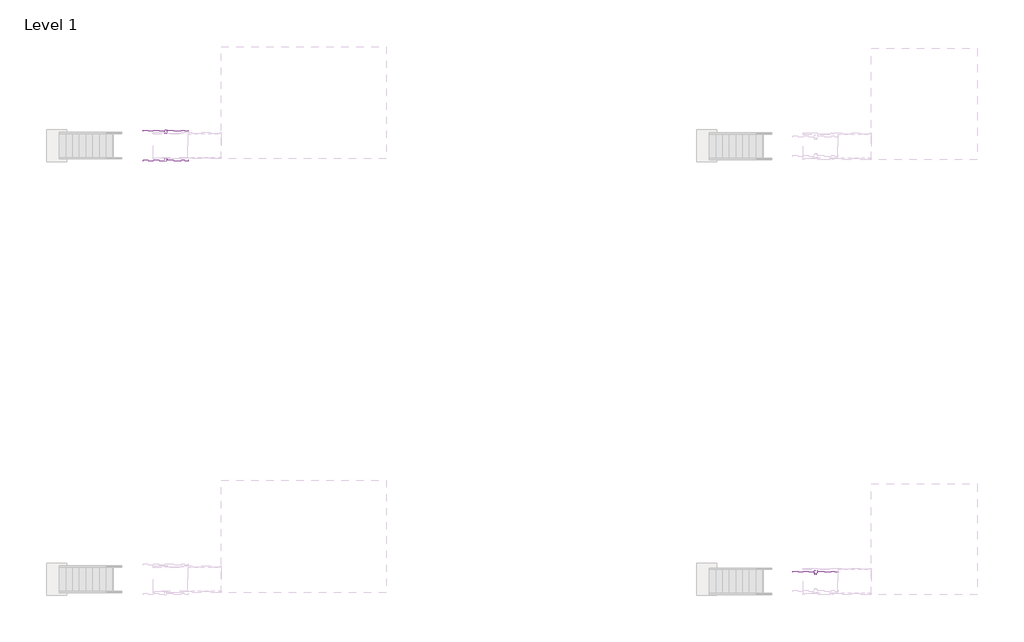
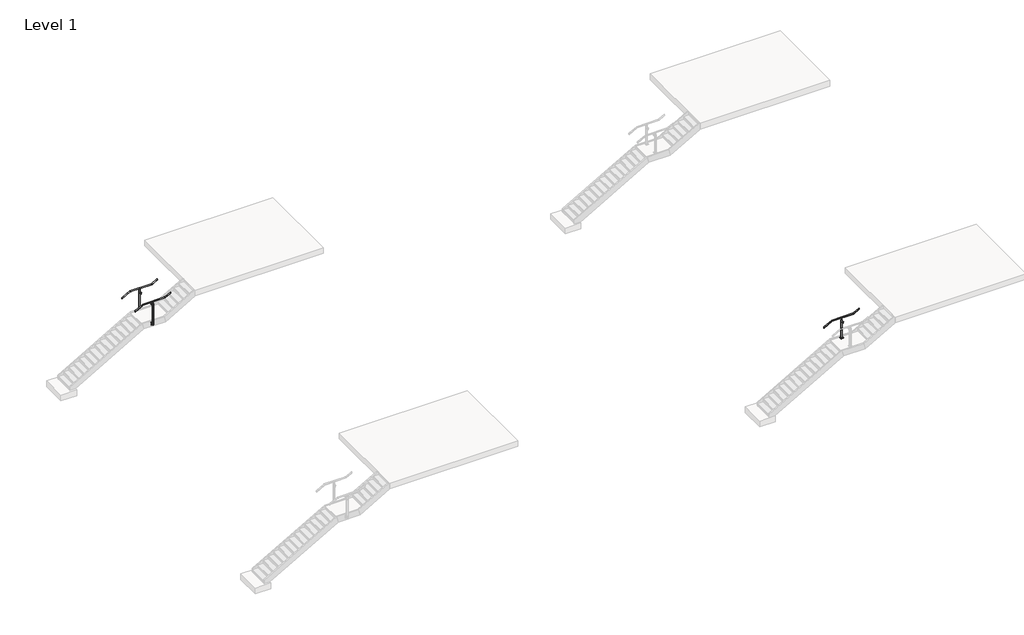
# One storey, part 16 of 26: 3 railings.
"""IFC4 building model written with IfcOpenShell, lengths in millimetres."""

from ifc_helpers import new_model, si_unit, point, frame, frame_2d, origin, place, context, project, spatial, polyline, circle_curve, ellipse_curve, trimmed, segment, composite_curve, outline, extrude, faceted_brep, element, save
from ifc_brep_helpers import plane_surface, cylinder_surface, advanced_brep

model = new_model("IFC4")

# Units and contexts
model_context = context("Model", 3, world=origin())
ifc_project = project(units=[si_unit("LENGTHUNIT", "METRE", prefix="MILLI")], contexts=[model_context])

# Site, building, storey
site = spatial("IfcSite", under=ifc_project)
building = spatial("IfcBuilding", under=site)
storey = spatial("IfcBuildingStorey", under=building, Name="Level 1", Elevation=0.0)

# Railings
placement = place(None, origin())
element("IfcRailing", 1, ObjectType="VIVA-CUBE-Perforated-Fascia Mount-Stair-Landing", at=placement, inside=storey, context=model_context, shape_type="SolidModel", body=[
    advanced_brep(
    [(87644.1145262, -1406.4771758, 3009.6740933), (87644.1145262, -1355.6771758, 3009.6740933), (88031.8598629, -1406.4771758, 3231.2428571), (88031.8598629, -1355.6771758, 3231.2428571), (89098.6598629, -1406.4771758, 3231.2428571), (89098.6598629, -1355.6771758, 3231.2428571), (89368.1395262, -1406.4771758, 3385.2312362), (89368.1395262, -1355.6771758, 3385.2312362)],
    [
        (0, 1, ellipse_curve(frame((87644.1145262, -1381.0771758, 3009.6740933), z_axis=(-1.0, 0.0, 0.0), x_axis=(0.0, 0.0, -0.9999999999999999)), 29.2544781, 25.4)),
        (1, 0, ellipse_curve(frame((87644.1145262, -1381.0771758, 3009.6740933), z_axis=(-1.0, 0.0, 0.0), x_axis=(0.0, 0.0, -0.9999999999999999)), 29.2544781, 25.4)),
        (0, 2),
        (2, 3, ellipse_curve(frame((88031.8598629, -1381.0771758, 3231.2428571), z_axis=(-0.966499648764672, 0.0, -0.25666793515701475), x_axis=(0.25666793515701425, 0.0, -0.9664996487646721)), 26.2804027, 25.4)),
        (3, 1),
        (3, 2, ellipse_curve(frame((88031.8598629, -1381.0771758, 3231.2428571), z_axis=(-0.966499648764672, 0.0, -0.25666793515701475), x_axis=(0.25666793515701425, 0.0, -0.9664996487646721)), 26.2804027, 25.4)),
        (2, 4),
        (4, 5, ellipse_curve(frame((89098.6598629, -1381.0771758, 3231.2428571), z_axis=(-0.9664996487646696, 0.0, -0.2566679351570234), x_axis=(-0.2566679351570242, 0.0, 0.9664996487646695)), 26.2804027, 25.4)),
        (5, 3),
        (5, 4, ellipse_curve(frame((89098.6598629, -1381.0771758, 3231.2428571), z_axis=(-0.9664996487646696, 0.0, -0.2566679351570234), x_axis=(-0.2566679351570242, 0.0, 0.9664996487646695)), 26.2804027, 25.4)),
        (6, 7, ellipse_curve(frame((89368.1395262, -1381.0771758, 3385.2312362), z_axis=(1.0, 0.0, 0.0), x_axis=(0.0, 0.0, -1.0)), 29.2544781, 25.4)),
        (7, 6, ellipse_curve(frame((89368.1395262, -1381.0771758, 3385.2312362), z_axis=(1.0, 0.0, 0.0), x_axis=(0.0, 0.0, -1.0)), 29.2544781, 25.4)),
        (4, 6),
        (7, 5),
    ],
    [
        plane_surface(frame((87644.1145262, -1381.0771758, 3038.9285714), z_axis=(-1.0, 0.0, 0.0), x_axis=(0.0, 1.0, 0.0))),
        cylinder_surface(frame((87656.7164552, -1381.0771758, 3016.8751956), z_axis=(-0.868243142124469, 0.0, -0.49613893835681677), x_axis=(0.0, 1.0, 0.0)), 25.4),
        cylinder_surface(frame((88025.1145262, -1381.0771758, 3231.2428571), z_axis=(-1.0, 0.0, 0.0), x_axis=(0.0, 1.0, 0.0)), 25.4),
        plane_surface(frame((89368.1395262, -1381.0771758, 3414.4857143), z_axis=(1.0, 0.0, 0.0), x_axis=(0.0, 1.0, 0.0))),
        cylinder_surface(frame((89104.5164552, -1381.0771758, 3234.5894813), z_axis=(-0.8682431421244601, 0.0, -0.4961389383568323), x_axis=(0.0, 1.0, 0.0)), 25.4),
    ],
    [
        (0, [[1, 2]]),
        (1, [[-1, 3, 4, 5]]),
        (1, [[-2, -5, 6, -3]]),
        (2, [[-4, 7, 8, 9]]),
        (2, [[-6, -9, 10, -7]]),
        (3, [[11, 12]]),
        (4, [[-8, 13, -12, 14]]),
        (4, [[-10, -14, -11, -13]]),
    ],
),
    extrude(outline(composite_curve([segment(trimmed(circle_curve(frame_2d((0.0, 7.0)), 7.0), [point((0.0, 14.0))], [point((0.0, 0.0))], False, "CARTESIAN"), True, "CONTINUOUS"), segment(trimmed(circle_curve(frame_2d((0.0, 7.0)), 7.0), [point((0.0, 0.0))], [point((0.0, 14.0))], False, "CARTESIAN"), True, "CONTINUOUS")], self_intersect=False)), frame((88506.6192867, -1466.7610015, 2972.3156836), z_axis=(-0.0012555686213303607, 0.0, 0.999999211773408), x_axis=(-0.999999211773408, 0.0, -0.0012555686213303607)), (0.0, 0.0, 1.0), 75.97),
    extrude(outline(composite_curve([segment(polyline([(-1461.4793453, 3056.8509005), (-1460.4529557, 3055.8335135)]), True, "CONTINUOUS"), segment(trimmed(circle_curve(frame_2d((-1461.5089336, 3054.7681916)), 1.5), [point((-1460.4529557, 3055.8335135))], [point((-1460.5235321, 3053.6372698))], False, "CARTESIAN"), True, "CONTINUOUS"), segment(trimmed(circle_curve(frame_2d((-1475.0089336, 3070.2618193)), 22.05), [point((-1460.5235321, 3053.6372698))], [point((-1489.494335, 3053.6372698))], False, "CARTESIAN"), True, "CONTINUOUS"), segment(trimmed(circle_curve(frame_2d((-1488.5089336, 3054.7681916)), 1.5), [point((-1489.494335, 3053.6372698))], [point((-1489.5649114, 3055.8335135))], False, "CARTESIAN"), True, "CONTINUOUS"), segment(polyline([(-1489.5649114, 3055.8335135), (-1488.5385218, 3056.8509005)]), True, "CONTINUOUS"), segment(trimmed(circle_curve(frame_2d((-1475.0089336, 3070.2618193)), 19.05), [point((-1488.5385218, 3056.8509005))], [point((-1461.4793453, 3056.8509005))], True, "CARTESIAN"), True, "CONTINUOUS")], self_intersect=False)), frame((88468.4477528, 0.0, 0.0), z_axis=(1.0, 0.0, 0.0), x_axis=(0.0, 1.0, 0.0)), (0.0, 0.0, 1.0), 74.5229187),
    extrude(outline(composite_curve([segment(trimmed(circle_curve(frame_2d((2999.1922796, 88506.5593832)), 12.5), [point((2999.1922796, 88519.0593832))], [point((2999.1922796, 88494.0593832))], False, "CARTESIAN"), True, "CONTINUOUS"), segment(trimmed(circle_curve(frame_2d((2999.1922796, 88506.5593832)), 12.5), [point((2999.1922796, 88494.0593832))], [point((2999.1922796, 88519.0593832))], False, "CARTESIAN"), True, "CONTINUOUS")], self_intersect=False)), frame((0.0, -1488.5385218, 0.0), z_axis=(0.0, 1.0, 0.0), x_axis=(0.0, 0.0, 1.0)), (0.0, 0.0, 1.0), 82.061346),
    extrude(outline(polyline([(88570.0239012, -1435.5902114), (88443.0239012, -1435.5902114), (88443.0239012, -1425.6080114), (88570.0239012, -1425.6080114), (88570.0239012, -1435.5902114)])), frame((0.0, 0.0, 1999.3428571), z_axis=(0.0, 0.0, 1.0), x_axis=(1.0, 0.0, 0.0)), (0.0, 0.0, 1.0), 152.4),
    extrude(outline(composite_curve([segment(polyline([(2151.7428571, 88567.4839012), (2151.7428571, 88445.5639012)]), True, "CONTINUOUS"), segment(trimmed(circle_curve(frame_2d((2149.2028571, 88445.5639012)), 2.54), [point((2151.7428571, 88445.5639012))], [point((2149.2028571, 88443.0239012))], False, "CARTESIAN"), True, "CONTINUOUS"), segment(polyline([(2149.2028571, 88443.0239012), (2001.8828571, 88443.0239012)]), True, "CONTINUOUS"), segment(trimmed(circle_curve(frame_2d((2001.8828571, 88445.5639012)), 2.54), [point((2001.8828571, 88443.0239012))], [point((1999.3428571, 88445.5639012))], False, "CARTESIAN"), True, "CONTINUOUS"), segment(polyline([(1999.3428571, 88445.5639012), (1999.3428571, 88567.4839012)]), True, "CONTINUOUS"), segment(trimmed(circle_curve(frame_2d((2001.8828571, 88567.4839012)), 2.54), [point((1999.3428571, 88567.4839012))], [point((2001.8828571, 88570.0239012))], False, "CARTESIAN"), True, "CONTINUOUS"), segment(polyline([(2001.8828571, 88570.0239012), (2149.2028571, 88570.0239012)]), True, "CONTINUOUS"), segment(trimmed(circle_curve(frame_2d((2149.2028571, 88567.4839012)), 2.54), [point((2149.2028571, 88570.0239012))], [point((2151.7428571, 88567.4839012))], False, "CARTESIAN"), True, "CONTINUOUS")], self_intersect=False), holes=[composite_curve([segment(trimmed(circle_curve(frame_2d((2132.6928571, 88462.0739012)), 5.55625), [point((2132.6928571, 88467.6301512))], [point((2132.6928571, 88456.5176512))], True, "CARTESIAN"), True, "CONTINUOUS"), segment(trimmed(circle_curve(frame_2d((2132.6928571, 88462.0739012)), 5.55625), [point((2132.6928571, 88456.5176512))], [point((2132.6928571, 88467.6301512))], True, "CARTESIAN"), True, "CONTINUOUS")], self_intersect=False), composite_curve([segment(trimmed(circle_curve(frame_2d((2132.6928571, 88550.9739012)), 5.55625), [point((2132.6928571, 88556.5301512))], [point((2132.6928571, 88545.4176512))], True, "CARTESIAN"), True, "CONTINUOUS"), segment(trimmed(circle_curve(frame_2d((2132.6928571, 88550.9739012)), 5.55625), [point((2132.6928571, 88545.4176512))], [point((2132.6928571, 88556.5301512))], True, "CARTESIAN"), True, "CONTINUOUS")], self_intersect=False), composite_curve([segment(trimmed(circle_curve(frame_2d((2018.3928571, 88550.9739012)), 5.55625), [point((2018.3928571, 88556.5301512))], [point((2018.3928571, 88545.4176512))], True, "CARTESIAN"), True, "CONTINUOUS"), segment(trimmed(circle_curve(frame_2d((2018.3928571, 88550.9739012)), 5.55625), [point((2018.3928571, 88545.4176512))], [point((2018.3928571, 88556.5301512))], True, "CARTESIAN"), True, "CONTINUOUS")], self_intersect=False), composite_curve([segment(trimmed(circle_curve(frame_2d((2018.3928571, 88462.0739012)), 5.55625), [point((2018.3928571, 88467.6301512))], [point((2018.3928571, 88456.5176512))], True, "CARTESIAN"), True, "CONTINUOUS"), segment(trimmed(circle_curve(frame_2d((2018.3928571, 88462.0739012)), 5.55625), [point((2018.3928571, 88456.5176512))], [point((2018.3928571, 88467.6301512))], True, "CARTESIAN"), True, "CONTINUOUS")], self_intersect=False)]), frame((0.0, -1425.6080114, 0.0), z_axis=(0.0, 1.0, 0.0), x_axis=(0.0, 0.0, 1.0)), (0.0, 0.0, 1.0), 9.9822),
    extrude(outline(polyline([(88474.7739012, -1425.6080114), (88474.7739012, -1349.3271758), (88538.2739012, -1349.3271758), (88538.2739012, -1425.6080114), (88474.7739012, -1425.6080114)])), frame((0.0, 0.0, 2026.3303571), z_axis=(0.0, 0.0, 1.0), x_axis=(1.0, 0.0, 0.0)), (0.0, 0.0, 1.0), 9.5123),
    extrude(outline(polyline([(88474.7739012, -1425.6080114), (88474.7739012, -1349.3271758), (88538.2739012, -1349.3271758), (88538.2739012, -1425.6080114), (88474.7739012, -1425.6080114)])), frame((0.0, 0.0, 2115.2303571), z_axis=(0.0, 0.0, 1.0), x_axis=(1.0, 0.0, 0.0)), (0.0, 0.0, 1.0), 9.525),
    extrude(outline(composite_curve([segment(trimmed(circle_curve(frame_2d((2999.1922796, 88506.5593832)), 12.5), [point((2999.1922796, 88494.0593832))], [point((2999.1922796, 88519.0593832))], False, "CARTESIAN"), True, "CONTINUOUS"), segment(trimmed(circle_curve(frame_2d((2999.1922796, 88506.5593832)), 12.5), [point((2999.1922796, 88519.0593832))], [point((2999.1922796, 88494.0593832))], False, "CARTESIAN"), True, "CONTINUOUS")], self_intersect=False)), frame((0.0, -1355.6771758, 0.0), z_axis=(0.0, 1.0, 0.0), x_axis=(0.0, 0.0, 1.0)), (0.0, 0.0, 1.0), 7.62),
    faceted_brep([(88519.2239012, -1393.7771758, 3174.433132), (88519.2239012, -1385.0459258, 3174.433132), (88493.8239012, -1385.0459258, 3174.433132), (88493.8239012, -1393.7771758, 3174.433132), (88493.8239012, -1368.3771758, 3174.433132), (88493.8239012, -1377.1084258, 3174.433132), (88519.2239012, -1377.1084258, 3174.433132), (88519.2239012, -1368.3771758, 3174.433132), (88531.9239012, -1406.4771758, 3118.2776425), (88531.9239012, -1355.6771758, 3118.2776425), (88481.1239012, -1406.4771758, 3118.2776425), (88481.1239012, -1355.6771758, 3118.2776425), (88531.9239012, -1406.4771758, 2035.8426571), (88481.1239012, -1406.4771758, 2035.8426571), (88481.1239012, -1355.6771758, 2035.8426571), (88531.9239012, -1355.6771758, 2035.8426571), (88493.8239012, -1377.1084258, 3186.4734584), (88493.8239012, -1385.0459258, 3186.4734584), (88519.2239012, -1385.0459258, 3186.4734584), (88519.2239012, -1377.1084258, 3186.4734584)], [[[0, 1, 2, 3]], [[4, 5, 6, 7]], [[8, 9, 7, 6, 1, 0]], [[3, 10, 8, 0]], [[3, 2, 5, 4, 11, 10]], [[7, 9, 11, 4]], [[12, 13, 14, 15]], [[12, 8, 10, 13]], [[13, 10, 11, 14]], [[14, 11, 9, 15]], [[15, 9, 8, 12]], [[16, 17, 18, 19]], [[19, 6, 5, 16]], [[18, 1, 6, 19]], [[17, 2, 1, 18]], [[16, 5, 2, 17]]]),
    extrude(outline(composite_curve([segment(trimmed(circle_curve(frame_2d((-1367.0625436, 3206.6530378)), 2.9558141), [point((-1368.6101013, 3209.1713512))], [point((-1364.7742038, 3204.7821187))], False, "CARTESIAN"), True, "CONTINUOUS"), segment(trimmed(circle_curve(frame_2d((-1381.0404411, 3232.0488022)), 31.75), [point((-1364.7742038, 3204.7821187))], [point((-1396.2910961, 3204.2013603))], False, "CARTESIAN"), True, "CONTINUOUS"), segment(trimmed(circle_curve(frame_2d((-1394.813791, 3206.5739456)), 2.7949225), [point((-1396.2910961, 3204.2013603))], [point((-1393.5691379, 3209.0764304))], False, "CARTESIAN"), True, "CONTINUOUS"), segment(trimmed(circle_curve(frame_2d((-1381.1739041, 3231.2861755)), 25.4345159), [point((-1393.5691379, 3209.0764304))], [point((-1368.6101013, 3209.1713512))], True, "CARTESIAN"), True, "CONTINUOUS")], self_intersect=False)), frame((88461.2865012, 0.0, 0.0), z_axis=(1.0, 0.0, 0.0), x_axis=(0.0, 1.0, 0.0)), (0.0, 0.0, 1.0), 90.4748),
    extrude(outline(composite_curve([segment(polyline([(3200.5113742, 88533.5918161), (3200.5113742, 88479.4559863)]), True, "CONTINUOUS"), segment(trimmed(circle_curve(frame_2d((3186.1434593, 88479.4559863)), 14.3679149), [point((3200.5113742, 88479.4559863))], [point((3186.1434593, 88493.8239012))], True, "CARTESIAN"), True, "CONTINUOUS"), segment(trimmed(circle_curve(frame_2d((3186.1434593, 88506.5239012)), 12.7), [point((3186.1434593, 88493.8239012))], [point((3186.1434593, 88519.2239012))], False, "CARTESIAN"), True, "CONTINUOUS"), segment(trimmed(circle_curve(frame_2d((3186.1434593, 88533.5918161)), 14.3679149), [point((3186.1434593, 88519.2239012))], [point((3200.5113742, 88533.5918161))], True, "CARTESIAN"), True, "CONTINUOUS")], self_intersect=False)), frame((0.0, -1383.6171758, 0.0), z_axis=(0.0, 1.0, 0.0), x_axis=(0.0, 0.0, 1.0)), (0.0, 0.0, 1.0), 5.08),
])
element("IfcRailing", 2, ObjectType="VIVA-CUBE-Perforated-Fascia Mount-Stair-Landing", at=placement, inside=storey, context=model_context, shape_type="SolidModel", body=[
    advanced_brep(
    [(87644.1145262, -2531.4939758, 3009.6740933), (87644.1145262, -2480.6939758, 3009.6740933), (88031.8598629, -2531.4939758, 3231.2428571), (88031.8598629, -2480.6939758, 3231.2428571), (89098.6598629, -2531.4939758, 3231.2428571), (89098.6598629, -2480.6939758, 3231.2428571), (89368.1395262, -2531.4939758, 3385.2312362), (89368.1395262, -2480.6939758, 3385.2312362)],
    [
        (0, 1, ellipse_curve(frame((87644.1145262, -2506.0939758, 3009.6740933), z_axis=(-1.0, 0.0, 0.0), x_axis=(0.0, 0.0, -0.9999999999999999)), 29.2544781, 25.4)),
        (1, 0, ellipse_curve(frame((87644.1145262, -2506.0939758, 3009.6740933), z_axis=(-1.0, 0.0, 0.0), x_axis=(0.0, 0.0, -0.9999999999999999)), 29.2544781, 25.4)),
        (0, 2),
        (2, 3, ellipse_curve(frame((88031.8598629, -2506.0939758, 3231.2428571), z_axis=(-0.966499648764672, 0.0, -0.25666793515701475), x_axis=(0.25666793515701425, 0.0, -0.9664996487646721)), 26.2804027, 25.4)),
        (3, 1),
        (3, 2, ellipse_curve(frame((88031.8598629, -2506.0939758, 3231.2428571), z_axis=(-0.966499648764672, 0.0, -0.25666793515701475), x_axis=(0.25666793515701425, 0.0, -0.9664996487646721)), 26.2804027, 25.4)),
        (2, 4),
        (4, 5, ellipse_curve(frame((89098.6598629, -2506.0939758, 3231.2428571), z_axis=(-0.9664996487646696, 0.0, -0.2566679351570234), x_axis=(-0.2566679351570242, 0.0, 0.9664996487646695)), 26.2804027, 25.4)),
        (5, 3),
        (5, 4, ellipse_curve(frame((89098.6598629, -2506.0939758, 3231.2428571), z_axis=(-0.9664996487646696, 0.0, -0.2566679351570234), x_axis=(-0.2566679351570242, 0.0, 0.9664996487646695)), 26.2804027, 25.4)),
        (6, 7, ellipse_curve(frame((89368.1395262, -2506.0939758, 3385.2312362), z_axis=(1.0, 0.0, 0.0), x_axis=(0.0, 0.0, -1.0)), 29.2544781, 25.4)),
        (7, 6, ellipse_curve(frame((89368.1395262, -2506.0939758, 3385.2312362), z_axis=(1.0, 0.0, 0.0), x_axis=(0.0, 0.0, -1.0)), 29.2544781, 25.4)),
        (4, 6),
        (7, 5),
    ],
    [
        plane_surface(frame((87644.1145262, -2506.0939758, 3038.9285714), z_axis=(-1.0, 0.0, 0.0), x_axis=(0.0, 1.0, 0.0))),
        cylinder_surface(frame((87656.7164552, -2506.0939758, 3016.8751956), z_axis=(-0.868243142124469, 0.0, -0.49613893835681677), x_axis=(0.0, 1.0, 0.0)), 25.4),
        cylinder_surface(frame((88025.1145262, -2506.0939758, 3231.2428571), z_axis=(-1.0, 0.0, 0.0), x_axis=(0.0, 1.0, 0.0)), 25.4),
        plane_surface(frame((89368.1395262, -2506.0939758, 3414.4857143), z_axis=(1.0, 0.0, 0.0), x_axis=(0.0, 1.0, 0.0))),
        cylinder_surface(frame((89104.5164552, -2506.0939758, 3234.5894813), z_axis=(-0.8682431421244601, 0.0, -0.4961389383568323), x_axis=(0.0, 1.0, 0.0)), 25.4),
    ],
    [
        (0, [[1, 2]]),
        (1, [[-1, 3, 4, 5]]),
        (1, [[-2, -5, 6, -3]]),
        (2, [[-4, 7, 8, 9]]),
        (2, [[-6, -9, 10, -7]]),
        (3, [[11, 12]]),
        (4, [[-8, 13, -12, 14]]),
        (4, [[-10, -14, -11, -13]]),
    ],
),
    extrude(outline(composite_curve([segment(trimmed(circle_curve(frame_2d((0.0, -7.0)), 7.0), [point((0.0, -14.0))], [point((0.0, 0.0))], False, "CARTESIAN"), True, "CONTINUOUS"), segment(trimmed(circle_curve(frame_2d((0.0, -7.0)), 7.0), [point((0.0, 0.0))], [point((0.0, -14.0))], False, "CARTESIAN"), True, "CONTINUOUS")], self_intersect=False)), frame((88506.6192867, -2420.41015, 2972.3156836), z_axis=(-0.0012555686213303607, 0.0, 0.999999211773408), x_axis=(-0.999999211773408, 0.0, -0.0012555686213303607)), (0.0, 0.0, 1.0), 75.97),
    extrude(outline(composite_curve([segment(trimmed(circle_curve(frame_2d((-2412.162218, 3070.2618193)), 19.05), [point((-2425.6918062, 3056.8509005))], [point((-2398.6326297, 3056.8509005))], True, "CARTESIAN"), True, "CONTINUOUS"), segment(polyline([(-2398.6326297, 3056.8509005), (-2397.6062401, 3055.8335135)]), True, "CONTINUOUS"), segment(trimmed(circle_curve(frame_2d((-2398.662218, 3054.7681916)), 1.5), [point((-2397.6062401, 3055.8335135))], [point((-2397.6768165, 3053.6372698))], False, "CARTESIAN"), True, "CONTINUOUS"), segment(trimmed(circle_curve(frame_2d((-2412.162218, 3070.2618193)), 22.05), [point((-2397.6768165, 3053.6372698))], [point((-2426.6476194, 3053.6372698))], False, "CARTESIAN"), True, "CONTINUOUS"), segment(trimmed(circle_curve(frame_2d((-2425.662218, 3054.7681916)), 1.5), [point((-2426.6476194, 3053.6372698))], [point((-2426.7181958, 3055.8335135))], False, "CARTESIAN"), True, "CONTINUOUS"), segment(polyline([(-2426.7181958, 3055.8335135), (-2425.6918062, 3056.8509005)]), True, "CONTINUOUS")], self_intersect=False)), frame((88468.4477528, 0.0, 0.0), z_axis=(1.0, 0.0, 0.0), x_axis=(0.0, 1.0, 0.0)), (0.0, 0.0, 1.0), 74.5229187),
    extrude(outline(composite_curve([segment(trimmed(circle_curve(frame_2d((2999.1922796, 88506.5593832)), 12.5), [point((2999.1922796, 88519.0593832))], [point((2999.1922796, 88494.0593832))], False, "CARTESIAN"), True, "CONTINUOUS"), segment(trimmed(circle_curve(frame_2d((2999.1922796, 88506.5593832)), 12.5), [point((2999.1922796, 88494.0593832))], [point((2999.1922796, 88519.0593832))], False, "CARTESIAN"), True, "CONTINUOUS")], self_intersect=False)), frame((0.0, -2480.6939758, 0.0), z_axis=(0.0, 1.0, 0.0), x_axis=(0.0, 0.0, 1.0)), (0.0, 0.0, 1.0), 82.061346),
    extrude(outline(polyline([(88570.0239012, -2451.5809402), (88570.0239012, -2461.5631402), (88443.0239012, -2461.5631402), (88443.0239012, -2451.5809402), (88570.0239012, -2451.5809402)])), frame((0.0, 0.0, 1999.3428571), z_axis=(0.0, 0.0, 1.0), x_axis=(1.0, 0.0, 0.0)), (0.0, 0.0, 1.0), 152.4),
    extrude(outline(composite_curve([segment(polyline([(2151.7428571, 88567.4839012), (2151.7428571, 88445.5639012)]), True, "CONTINUOUS"), segment(trimmed(circle_curve(frame_2d((2149.2028571, 88445.5639012)), 2.54), [point((2151.7428571, 88445.5639012))], [point((2149.2028571, 88443.0239012))], False, "CARTESIAN"), True, "CONTINUOUS"), segment(polyline([(2149.2028571, 88443.0239012), (2001.8828571, 88443.0239012)]), True, "CONTINUOUS"), segment(trimmed(circle_curve(frame_2d((2001.8828571, 88445.5639012)), 2.54), [point((2001.8828571, 88443.0239012))], [point((1999.3428571, 88445.5639012))], False, "CARTESIAN"), True, "CONTINUOUS"), segment(polyline([(1999.3428571, 88445.5639012), (1999.3428571, 88567.4839012)]), True, "CONTINUOUS"), segment(trimmed(circle_curve(frame_2d((2001.8828571, 88567.4839012)), 2.54), [point((1999.3428571, 88567.4839012))], [point((2001.8828571, 88570.0239012))], False, "CARTESIAN"), True, "CONTINUOUS"), segment(polyline([(2001.8828571, 88570.0239012), (2149.2028571, 88570.0239012)]), True, "CONTINUOUS"), segment(trimmed(circle_curve(frame_2d((2149.2028571, 88567.4839012)), 2.54), [point((2149.2028571, 88570.0239012))], [point((2151.7428571, 88567.4839012))], False, "CARTESIAN"), True, "CONTINUOUS")], self_intersect=False), holes=[composite_curve([segment(trimmed(circle_curve(frame_2d((2132.6928571, 88462.0739012)), 5.55625), [point((2132.6928571, 88467.6301512))], [point((2132.6928571, 88456.5176512))], True, "CARTESIAN"), True, "CONTINUOUS"), segment(trimmed(circle_curve(frame_2d((2132.6928571, 88462.0739012)), 5.55625), [point((2132.6928571, 88456.5176512))], [point((2132.6928571, 88467.6301512))], True, "CARTESIAN"), True, "CONTINUOUS")], self_intersect=False), composite_curve([segment(trimmed(circle_curve(frame_2d((2132.6928571, 88550.9739012)), 5.55625), [point((2132.6928571, 88556.5301512))], [point((2132.6928571, 88545.4176512))], True, "CARTESIAN"), True, "CONTINUOUS"), segment(trimmed(circle_curve(frame_2d((2132.6928571, 88550.9739012)), 5.55625), [point((2132.6928571, 88545.4176512))], [point((2132.6928571, 88556.5301512))], True, "CARTESIAN"), True, "CONTINUOUS")], self_intersect=False), composite_curve([segment(trimmed(circle_curve(frame_2d((2018.3928571, 88550.9739012)), 5.55625), [point((2018.3928571, 88556.5301512))], [point((2018.3928571, 88545.4176512))], True, "CARTESIAN"), True, "CONTINUOUS"), segment(trimmed(circle_curve(frame_2d((2018.3928571, 88550.9739012)), 5.55625), [point((2018.3928571, 88545.4176512))], [point((2018.3928571, 88556.5301512))], True, "CARTESIAN"), True, "CONTINUOUS")], self_intersect=False), composite_curve([segment(trimmed(circle_curve(frame_2d((2018.3928571, 88462.0739012)), 5.55625), [point((2018.3928571, 88467.6301512))], [point((2018.3928571, 88456.5176512))], True, "CARTESIAN"), True, "CONTINUOUS"), segment(trimmed(circle_curve(frame_2d((2018.3928571, 88462.0739012)), 5.55625), [point((2018.3928571, 88456.5176512))], [point((2018.3928571, 88467.6301512))], True, "CARTESIAN"), True, "CONTINUOUS")], self_intersect=False)]), frame((0.0, -2471.5453402, 0.0), z_axis=(0.0, 1.0, 0.0), x_axis=(0.0, 0.0, 1.0)), (0.0, 0.0, 1.0), 9.9822),
    extrude(outline(polyline([(88474.7739012, -2461.5631402), (88538.2739012, -2461.5631402), (88538.2739012, -2537.8439758), (88474.7739012, -2537.8439758), (88474.7739012, -2461.5631402)])), frame((0.0, 0.0, 2026.3303571), z_axis=(0.0, 0.0, 1.0), x_axis=(1.0, 0.0, 0.0)), (0.0, 0.0, 1.0), 9.5123),
    extrude(outline(polyline([(88474.7739012, -2461.5631402), (88538.2739012, -2461.5631402), (88538.2739012, -2537.8439758), (88474.7739012, -2537.8439758), (88474.7739012, -2461.5631402)])), frame((0.0, 0.0, 2115.2303571), z_axis=(0.0, 0.0, 1.0), x_axis=(1.0, 0.0, 0.0)), (0.0, 0.0, 1.0), 9.525),
    extrude(outline(composite_curve([segment(trimmed(circle_curve(frame_2d((2999.1922796, 88506.5593832)), 12.5), [point((2999.1922796, 88494.0593832))], [point((2999.1922796, 88519.0593832))], False, "CARTESIAN"), True, "CONTINUOUS"), segment(trimmed(circle_curve(frame_2d((2999.1922796, 88506.5593832)), 12.5), [point((2999.1922796, 88519.0593832))], [point((2999.1922796, 88494.0593832))], False, "CARTESIAN"), True, "CONTINUOUS")], self_intersect=False)), frame((0.0, -2539.1139758, 0.0), z_axis=(0.0, 1.0, 0.0), x_axis=(0.0, 0.0, 1.0)), (0.0, 0.0, 1.0), 7.62),
    faceted_brep([(88519.2239012, -2493.3939758, 3174.433132), (88493.8239012, -2493.3939758, 3174.433132), (88493.8239012, -2502.1252258, 3174.433132), (88519.2239012, -2502.1252258, 3174.433132), (88493.8239012, -2518.7939758, 3174.433132), (88519.2239012, -2518.7939758, 3174.433132), (88519.2239012, -2510.0627258, 3174.433132), (88493.8239012, -2510.0627258, 3174.433132), (88531.9239012, -2480.6939758, 3118.2776425), (88531.9239012, -2531.4939758, 3118.2776425), (88481.1239012, -2480.6939758, 3118.2776425), (88481.1239012, -2531.4939758, 3118.2776425), (88531.9239012, -2480.6939758, 2035.8426571), (88531.9239012, -2531.4939758, 2035.8426571), (88481.1239012, -2531.4939758, 2035.8426571), (88481.1239012, -2480.6939758, 2035.8426571), (88493.8239012, -2510.0627258, 3186.4734584), (88519.2239012, -2510.0627258, 3186.4734584), (88519.2239012, -2502.1252258, 3186.4734584), (88493.8239012, -2502.1252258, 3186.4734584)], [[[0, 1, 2, 3]], [[4, 5, 6, 7]], [[8, 0, 3, 6, 5, 9]], [[1, 0, 8, 10]], [[1, 10, 11, 4, 7, 2]], [[5, 4, 11, 9]], [[12, 13, 14, 15]], [[12, 15, 10, 8]], [[15, 14, 11, 10]], [[14, 13, 9, 11]], [[13, 12, 8, 9]], [[16, 17, 18, 19]], [[17, 16, 7, 6]], [[18, 17, 6, 3]], [[19, 18, 3, 2]], [[16, 19, 2, 7]]]),
    extrude(outline(composite_curve([segment(trimmed(circle_curve(frame_2d((-2505.9972474, 3231.2861755)), 25.4345159), [point((-2518.5610503, 3209.1713512))], [point((-2493.6020137, 3209.0764304))], True, "CARTESIAN"), True, "CONTINUOUS"), segment(trimmed(circle_curve(frame_2d((-2492.3573605, 3206.5739456)), 2.7949225), [point((-2493.6020137, 3209.0764304))], [point((-2490.8800555, 3204.2013603))], False, "CARTESIAN"), True, "CONTINUOUS"), segment(trimmed(circle_curve(frame_2d((-2506.1307105, 3232.0488022)), 31.75), [point((-2490.8800555, 3204.2013603))], [point((-2522.3969477, 3204.7821187))], False, "CARTESIAN"), True, "CONTINUOUS"), segment(trimmed(circle_curve(frame_2d((-2520.108608, 3206.6530378)), 2.9558141), [point((-2522.3969477, 3204.7821187))], [point((-2518.5610503, 3209.1713512))], False, "CARTESIAN"), True, "CONTINUOUS")], self_intersect=False)), frame((88461.2865012, 0.0, 0.0), z_axis=(1.0, 0.0, 0.0), x_axis=(0.0, 1.0, 0.0)), (0.0, 0.0, 1.0), 90.4748),
    extrude(outline(composite_curve([segment(polyline([(3200.5113742, 88533.5918161), (3200.5113742, 88479.4559863)]), True, "CONTINUOUS"), segment(trimmed(circle_curve(frame_2d((3186.1434593, 88479.4559863)), 14.3679149), [point((3200.5113742, 88479.4559863))], [point((3186.1434593, 88493.8239012))], True, "CARTESIAN"), True, "CONTINUOUS"), segment(trimmed(circle_curve(frame_2d((3186.1434593, 88506.5239012)), 12.7), [point((3186.1434593, 88493.8239012))], [point((3186.1434593, 88519.2239012))], False, "CARTESIAN"), True, "CONTINUOUS"), segment(trimmed(circle_curve(frame_2d((3186.1434593, 88533.5918161)), 14.3679149), [point((3186.1434593, 88519.2239012))], [point((3200.5113742, 88533.5918161))], True, "CARTESIAN"), True, "CONTINUOUS")], self_intersect=False)), frame((0.0, -2508.6339758, 0.0), z_axis=(0.0, 1.0, 0.0), x_axis=(0.0, 0.0, 1.0)), (0.0, 0.0, 1.0), 5.08),
])
element("IfcRailing", 3, ObjectType="VIVA-CUBE-Wire Mesh-Floor Mount-Stair-Landing", at=placement, inside=storey, context=model_context, shape_type="SolidModel", body=[
    advanced_brep(
    [(112321.0882982, -18148.5120358, 3009.6740933), (112321.0882982, -18097.7120358, 3009.6740933), (112708.8336349, -18148.5120358, 3231.2428571), (112708.8336349, -18097.7120358, 3231.2428571), (113775.6336349, -18148.5120358, 3231.2428571), (113775.6336349, -18097.7120358, 3231.2428571), (114045.1132982, -18148.5120358, 3385.2312362), (114045.1132982, -18097.7120358, 3385.2312362)],
    [
        (0, 1, ellipse_curve(frame((112321.0882982, -18123.1120358, 3009.6740933), z_axis=(-1.0, 0.0, 0.0), x_axis=(0.0, 0.0, -1.0)), 29.2544781, 25.4)),
        (1, 0, ellipse_curve(frame((112321.0882982, -18123.1120358, 3009.6740933), z_axis=(-1.0, 0.0, 0.0), x_axis=(0.0, 0.0, -1.0)), 29.2544781, 25.4)),
        (0, 2),
        (2, 3, ellipse_curve(frame((112708.8336349, -18123.1120358, 3231.2428571), z_axis=(-0.966499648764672, 0.0, -0.25666793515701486), x_axis=(0.2566679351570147, 0.0, -0.966499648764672)), 26.2804027, 25.4)),
        (3, 1),
        (3, 2, ellipse_curve(frame((112708.8336349, -18123.1120358, 3231.2428571), z_axis=(-0.966499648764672, 0.0, -0.25666793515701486), x_axis=(0.2566679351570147, 0.0, -0.966499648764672)), 26.2804027, 25.4)),
        (2, 4),
        (4, 5, ellipse_curve(frame((113775.6336349, -18123.1120358, 3231.2428571), z_axis=(-0.9664996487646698, 0.0, -0.2566679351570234), x_axis=(-0.2566679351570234, 0.0, 0.9664996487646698)), 26.2804027, 25.4)),
        (5, 3),
        (5, 4, ellipse_curve(frame((113775.6336349, -18123.1120358, 3231.2428571), z_axis=(-0.9664996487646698, 0.0, -0.2566679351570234), x_axis=(-0.2566679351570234, 0.0, 0.9664996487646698)), 26.2804027, 25.4)),
        (6, 7, ellipse_curve(frame((114045.1132982, -18123.1120358, 3385.2312362), z_axis=(1.0, 0.0, 0.0), x_axis=(0.0, 0.0, -1.0)), 29.2544781, 25.4)),
        (7, 6, ellipse_curve(frame((114045.1132982, -18123.1120358, 3385.2312362), z_axis=(1.0, 0.0, 0.0), x_axis=(0.0, 0.0, -1.0)), 29.2544781, 25.4)),
        (4, 6),
        (7, 5),
    ],
    [
        plane_surface(frame((112321.0882982, -18123.1120358, 3038.9285714), z_axis=(-1.0, 0.0, 0.0), x_axis=(0.0, 1.0, 0.0))),
        cylinder_surface(frame((112333.6902273, -18123.1120358, 3016.8751956), z_axis=(-0.868243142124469, 0.0, -0.49613893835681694), x_axis=(0.0, 1.0, 0.0)), 25.4),
        cylinder_surface(frame((112702.0882982, -18123.1120358, 3231.2428571), z_axis=(-1.0, 0.0, 0.0), x_axis=(0.0, 1.0, 0.0)), 25.4),
        plane_surface(frame((114045.1132982, -18123.1120358, 3414.4857143), z_axis=(1.0, 0.0, 0.0), x_axis=(0.0, 1.0, 0.0))),
        cylinder_surface(frame((113781.4902273, -18123.1120358, 3234.5894813), z_axis=(-0.8682431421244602, 0.0, -0.4961389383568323), x_axis=(0.0, 1.0, 0.0)), 25.4),
    ],
    [
        (0, [[1, 2]]),
        (1, [[-1, 3, 4, 5]]),
        (1, [[-2, -5, 6, -3]]),
        (2, [[-4, 7, 8, 9]]),
        (2, [[-6, -9, 10, -7]]),
        (3, [[11, 12]]),
        (4, [[-8, 13, -12, 14]]),
        (4, [[-10, -14, -11, -13]]),
    ],
),
    extrude(outline(composite_curve([segment(trimmed(circle_curve(frame_2d((0.0, 7.0)), 7.0), [point((0.0, 14.0))], [point((0.0, 0.0))], False, "CARTESIAN"), True, "CONTINUOUS"), segment(trimmed(circle_curve(frame_2d((0.0, 7.0)), 7.0), [point((0.0, 0.0))], [point((0.0, 14.0))], False, "CARTESIAN"), True, "CONTINUOUS")], self_intersect=False)), frame((113183.5930588, -18208.7958616, 2972.3156836), z_axis=(-0.0012555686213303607, 0.0, 0.999999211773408), x_axis=(-0.999999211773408, 0.0, -0.0012555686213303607)), (0.0, 0.0, 1.0), 75.97),
    extrude(outline(composite_curve([segment(polyline([(-18203.5142054, 3056.8509005), (-18202.4878157, 3055.8335135)]), True, "CONTINUOUS"), segment(trimmed(circle_curve(frame_2d((-18203.5437936, 3054.7681916)), 1.5), [point((-18202.4878157, 3055.8335135))], [point((-18202.5583921, 3053.6372698))], False, "CARTESIAN"), True, "CONTINUOUS"), segment(trimmed(circle_curve(frame_2d((-18217.0437936, 3070.2618193)), 22.05), [point((-18202.5583921, 3053.6372698))], [point((-18231.5291951, 3053.6372698))], False, "CARTESIAN"), True, "CONTINUOUS"), segment(trimmed(circle_curve(frame_2d((-18230.5437936, 3054.7681916)), 1.5), [point((-18231.5291951, 3053.6372698))], [point((-18231.5997715, 3055.8335135))], False, "CARTESIAN"), True, "CONTINUOUS"), segment(polyline([(-18231.5997715, 3055.8335135), (-18230.5733818, 3056.8509005)]), True, "CONTINUOUS"), segment(trimmed(circle_curve(frame_2d((-18217.0437936, 3070.2618193)), 19.05), [point((-18230.5733818, 3056.8509005))], [point((-18203.5142054, 3056.8509005))], True, "CARTESIAN"), True, "CONTINUOUS")], self_intersect=False)), frame((113145.4215249, 0.0, 0.0), z_axis=(1.0, 0.0, 0.0), x_axis=(0.0, 1.0, 0.0)), (0.0, 0.0, 1.0), 74.5229187),
    extrude(outline(composite_curve([segment(trimmed(circle_curve(frame_2d((2999.1922796, 113183.5331553)), 12.5), [point((2999.1922796, 113196.0331553))], [point((2999.1922796, 113171.0331553))], False, "CARTESIAN"), True, "CONTINUOUS"), segment(trimmed(circle_curve(frame_2d((2999.1922796, 113183.5331553)), 12.5), [point((2999.1922796, 113171.0331553))], [point((2999.1922796, 113196.0331553))], False, "CARTESIAN"), True, "CONTINUOUS")], self_intersect=False)), frame((0.0, -18230.5733818, 0.0), z_axis=(0.0, 1.0, 0.0), x_axis=(0.0, 0.0, 1.0)), (0.0, 0.0, 1.0), 82.061346),
    extrude(outline(composite_curve([segment(trimmed(circle_curve(frame_2d((2999.1922796, 113183.5331553)), 12.5), [point((2999.1922796, 113171.0331553))], [point((2999.1922796, 113196.0331553))], False, "CARTESIAN"), True, "CONTINUOUS"), segment(trimmed(circle_curve(frame_2d((2999.1922796, 113183.5331553)), 12.5), [point((2999.1922796, 113196.0331553))], [point((2999.1922796, 113171.0331553))], False, "CARTESIAN"), True, "CONTINUOUS")], self_intersect=False)), frame((0.0, -18097.7120358, 0.0), z_axis=(0.0, 1.0, 0.0), x_axis=(0.0, 0.0, 1.0)), (0.0, 0.0, 1.0), 7.62),
    extrude(outline(polyline([(113246.9976732, -18186.6120358), (113119.9976732, -18186.6120358), (113119.9976732, -18059.6120358), (113246.9976732, -18059.6120358), (113246.9976732, -18186.6120358)]), holes=[composite_curve([segment(trimmed(circle_curve(frame_2d((113139.0476732, -18078.6620358)), 4.7625), [point((113139.0476732, -18073.8995358))], [point((113139.0476732, -18083.4245358))], True, "CARTESIAN"), True, "CONTINUOUS"), segment(trimmed(circle_curve(frame_2d((113139.0476732, -18078.6620358)), 4.7625), [point((113139.0476732, -18083.4245358))], [point((113139.0476732, -18073.8995358))], True, "CARTESIAN"), True, "CONTINUOUS")], self_intersect=False), composite_curve([segment(trimmed(circle_curve(frame_2d((113139.0476732, -18167.5620358)), 4.7625), [point((113139.0476732, -18162.7995358))], [point((113139.0476732, -18172.3245358))], True, "CARTESIAN"), True, "CONTINUOUS"), segment(trimmed(circle_curve(frame_2d((113139.0476732, -18167.5620358)), 4.7625), [point((113139.0476732, -18172.3245358))], [point((113139.0476732, -18162.7995358))], True, "CARTESIAN"), True, "CONTINUOUS")], self_intersect=False), composite_curve([segment(trimmed(circle_curve(frame_2d((113227.9476732, -18078.6620358)), 4.7625), [point((113227.9476732, -18073.8995358))], [point((113227.9476732, -18083.4245358))], True, "CARTESIAN"), True, "CONTINUOUS"), segment(trimmed(circle_curve(frame_2d((113227.9476732, -18078.6620358)), 4.7625), [point((113227.9476732, -18083.4245358))], [point((113227.9476732, -18073.8995358))], True, "CARTESIAN"), True, "CONTINUOUS")], self_intersect=False), composite_curve([segment(trimmed(circle_curve(frame_2d((113227.9476732, -18167.5620358)), 4.7625), [point((113227.9476732, -18162.7995358))], [point((113227.9476732, -18172.3245358))], True, "CARTESIAN"), True, "CONTINUOUS"), segment(trimmed(circle_curve(frame_2d((113227.9476732, -18167.5620358)), 4.7625), [point((113227.9476732, -18172.3245358))], [point((113227.9476732, -18162.7995358))], True, "CARTESIAN"), True, "CONTINUOUS")], self_intersect=False)]), frame((0.0, 0.0, 2177.1428571), z_axis=(0.0, 0.0, 1.0), x_axis=(1.0, 0.0, 0.0)), (0.0, 0.0, 1.0), 25.4),
    faceted_brep([(113196.1976732, -18135.8120358, 3174.433132), (113196.1976732, -18127.0807858, 3174.433132), (113170.7976732, -18127.0807858, 3174.433132), (113170.7976732, -18135.8120358, 3174.433132), (113170.7976732, -18110.4120358, 3174.433132), (113170.7976732, -18119.1432858, 3174.433132), (113196.1976732, -18119.1432858, 3174.433132), (113196.1976732, -18110.4120358, 3174.433132), (113208.8976732, -18148.5120358, 3118.2776425), (113208.8976732, -18097.7120358, 3118.2776425), (113158.0976732, -18148.5120358, 3118.2776425), (113158.0976732, -18097.7120358, 3118.2776425), (113208.8976732, -18148.5120358, 2202.5428571), (113158.0976732, -18148.5120358, 2202.5428571), (113158.0976732, -18097.7120358, 2202.5428571), (113208.8976732, -18097.7120358, 2202.5428571), (113170.7976732, -18119.1432858, 3186.4734584), (113170.7976732, -18127.0807858, 3186.4734584), (113196.1976732, -18127.0807858, 3186.4734584), (113196.1976732, -18119.1432858, 3186.4734584)], [[[0, 1, 2, 3]], [[4, 5, 6, 7]], [[8, 9, 7, 6, 1, 0]], [[3, 10, 8, 0]], [[3, 2, 5, 4, 11, 10]], [[7, 9, 11, 4]], [[12, 13, 14, 15]], [[12, 8, 10, 13]], [[13, 10, 11, 14]], [[14, 11, 9, 15]], [[15, 9, 8, 12]], [[16, 17, 18, 19]], [[19, 6, 5, 16]], [[18, 1, 6, 19]], [[17, 2, 1, 18]], [[16, 5, 2, 17]]]),
    extrude(outline(composite_curve([segment(trimmed(circle_curve(frame_2d((-18109.0974036, 3206.6530378)), 2.9558141), [point((-18110.6449613, 3209.1713512))], [point((-18106.8090639, 3204.7821187))], False, "CARTESIAN"), True, "CONTINUOUS"), segment(trimmed(circle_curve(frame_2d((-18123.0753011, 3232.0488022)), 31.75), [point((-18106.8090639, 3204.7821187))], [point((-18138.3259561, 3204.2013603))], False, "CARTESIAN"), True, "CONTINUOUS"), segment(trimmed(circle_curve(frame_2d((-18136.8486511, 3206.5739456)), 2.7949225), [point((-18138.3259561, 3204.2013603))], [point((-18135.6039979, 3209.0764304))], False, "CARTESIAN"), True, "CONTINUOUS"), segment(trimmed(circle_curve(frame_2d((-18123.2087642, 3231.2861755)), 25.4345159), [point((-18135.6039979, 3209.0764304))], [point((-18110.6449613, 3209.1713512))], True, "CARTESIAN"), True, "CONTINUOUS")], self_intersect=False)), frame((113138.2602732, 0.0, 0.0), z_axis=(1.0, 0.0, 0.0), x_axis=(0.0, 1.0, 0.0)), (0.0, 0.0, 1.0), 90.4748),
    extrude(outline(composite_curve([segment(polyline([(3200.5113742, 113210.5655881), (3200.5113742, 113156.4297584)]), True, "CONTINUOUS"), segment(trimmed(circle_curve(frame_2d((3186.1434593, 113156.4297584)), 14.3679149), [point((3200.5113742, 113156.4297584))], [point((3186.1434593, 113170.7976732))], True, "CARTESIAN"), True, "CONTINUOUS"), segment(trimmed(circle_curve(frame_2d((3186.1434593, 113183.4976732)), 12.7), [point((3186.1434593, 113170.7976732))], [point((3186.1434593, 113196.1976732))], False, "CARTESIAN"), True, "CONTINUOUS"), segment(trimmed(circle_curve(frame_2d((3186.1434593, 113210.5655881)), 14.3679149), [point((3186.1434593, 113196.1976732))], [point((3200.5113742, 113210.5655881))], True, "CARTESIAN"), True, "CONTINUOUS")], self_intersect=False)), frame((0.0, -18125.6520358, 0.0), z_axis=(0.0, 1.0, 0.0), x_axis=(0.0, 0.0, 1.0)), (0.0, 0.0, 1.0), 5.08),
])

save(model, "model.ifc")
